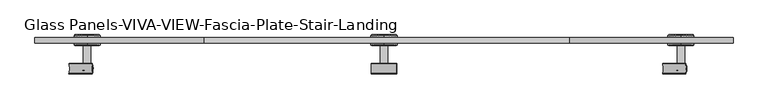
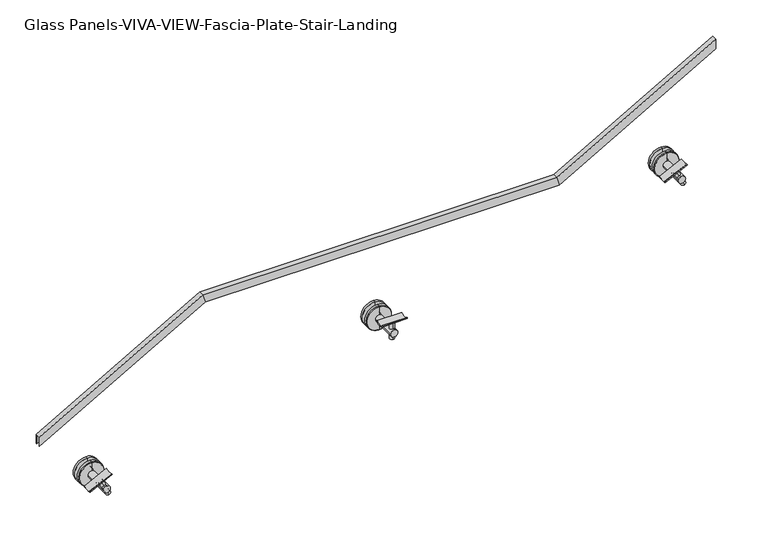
"""IFC4 building model written with IfcOpenShell, lengths in millimetres: railing geometry, Glass Panels-VIVA-VIEW-Fascia-Plate-Stair-Landing."""

from ifc_helpers import new_model, si_unit, point, frame, frame_2d, origin, place, context, project, spatial, polyline, circle_curve, trimmed, segment, composite_curve, outline, extrude, faceted_brep, source, transform, mapped, element, save
from ifc_brep_helpers import plane_surface, cylinder_surface, revolved_surface, advanced_brep


def glass_panels_viva_view_fascia_plate_stair_landing_6631e8c1(model_context):
    return source(origin(), model_context, "Body", "SolidModel", [
        faceted_brep([(34673.4016433, -10291.1594585, 2988.1285714), (34673.4016433, -10275.2844585, 2988.1285714), (34673.4016433, -10275.2844585, 2958.8740933), (34673.4016433, -10276.8719585, 2958.8740933), (34673.4016433, -10276.8719585, 2986.3001665), (34673.4016433, -10289.5719585, 2986.3001665), (34673.4016433, -10289.5719585, 2958.8740933), (34673.4016433, -10291.1594585, 2958.8740933), (35165.5266433, -10291.1594585, 3269.3428571), (35165.5266433, -10275.2844585, 3269.3428571), (35172.27198, -10275.2844585, 3243.9428571), (35172.27198, -10276.8719585, 3243.9428571), (35165.9482268, -10276.8719585, 3267.7553571), (35165.9482268, -10289.5719585, 3267.7553571), (35172.27198, -10289.5719585, 3243.9428571), (35172.27198, -10291.1594585, 3243.9428571), (36232.3266433, -10291.1594585, 3269.3428571), (36232.3266433, -10275.2844585, 3269.3428571), (36239.07198, -10275.2844585, 3243.9428571), (36239.07198, -10276.8719585, 3243.9428571), (36232.7482268, -10276.8719585, 3267.7553571), (36232.7482268, -10289.5719585, 3267.7553571), (36239.07198, -10289.5719585, 3243.9428571), (36239.07198, -10291.1594585, 3243.9428571), (36710.9578933, -10291.1594585, 3542.8464286), (36710.9578933, -10291.1594585, 3513.5919505), (36710.9578933, -10289.5719585, 3513.5919505), (36710.9578933, -10289.5719585, 3541.0180237), (36710.9578933, -10276.8719585, 3541.0180237), (36710.9578933, -10276.8719585, 3513.5919505), (36710.9578933, -10275.2844585, 3513.5919505), (36710.9578933, -10275.2844585, 3542.8464286)], [[[0, 1, 2, 3, 4, 5, 6, 7]], [[1, 0, 8, 9]], [[2, 1, 9, 10]], [[3, 2, 10, 11]], [[4, 3, 11, 12]], [[5, 4, 12, 13]], [[6, 5, 13, 14]], [[7, 6, 14, 15]], [[0, 7, 15, 8]], [[9, 8, 16, 17]], [[10, 9, 17, 18]], [[11, 10, 18, 19]], [[12, 11, 19, 20]], [[13, 12, 20, 21]], [[14, 13, 21, 22]], [[15, 14, 22, 23]], [[8, 15, 23, 16]], [[24, 25, 26, 27, 28, 29, 30, 31]], [[17, 16, 24, 31]], [[18, 17, 31, 30]], [[19, 18, 30, 29]], [[20, 19, 29, 28]], [[21, 20, 28, 27]], [[22, 21, 27, 26]], [[23, 22, 26, 25]], [[16, 23, 25, 24]]]),
        extrude(outline(composite_curve([segment(trimmed(circle_curve(frame_2d((35692.1797683, -10365.4418194)), 7.0), [point((35692.1797683, -10372.4418194))], [point((35692.1797683, -10358.4418194))], False, "CARTESIAN"), True, "CONTINUOUS"), segment(trimmed(circle_curve(frame_2d((35692.1797683, -10365.4418194)), 7.0), [point((35692.1797683, -10358.4418194))], [point((35692.1797683, -10372.4418194))], False, "CARTESIAN"), True, "CONTINUOUS")], self_intersect=False)), frame((0.0, 0.0, 2992.4664418), z_axis=(0.0, 0.0, 1.0), x_axis=(1.0, 0.0, 0.0)), (0.0, 0.0, 1.0), 52.8378352),
        extrude(outline(composite_curve([segment(polyline([(5.2466064, -13.9247916), (4.2292193, -14.9511812)]), True, "CONTINUOUS"), segment(trimmed(circle_curve(frame_2d((3.1638974, -13.8952033)), 1.5), [point((4.2292193, -14.9511812))], [point((2.0329757, -14.8806048))], False, "CARTESIAN"), True, "CONTINUOUS"), segment(trimmed(circle_curve(frame_2d((18.6575251, -0.3952033)), 22.05), [point((2.0329757, -14.8806048))], [point((2.0329757, 14.0901981))], False, "CARTESIAN"), True, "CONTINUOUS"), segment(trimmed(circle_curve(frame_2d((3.1638974, 13.1047967)), 1.5), [point((2.0329757, 14.0901981))], [point((4.2292193, 14.1607745))], False, "CARTESIAN"), True, "CONTINUOUS"), segment(polyline([(4.2292193, 14.1607745), (5.2466064, 13.1343849)]), True, "CONTINUOUS"), segment(trimmed(circle_curve(frame_2d((18.6575251, -0.3952033)), 19.05), [point((5.2466064, 13.1343849))], [point((5.2466064, -13.9247916))], True, "CARTESIAN"), True, "CONTINUOUS")], self_intersect=False)), frame((35654.9926572, -10367.1690518, 3048.6249714), z_axis=(0.9999988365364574, 0.0, 0.0015254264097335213), x_axis=(-0.0015254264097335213, 0.0, 0.9999988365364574)), (0.0, 0.0, 1.0), 74.5229187),
        extrude(outline(composite_curve([segment(trimmed(circle_curve(frame_2d((3015.3428571, 35692.1797683)), 11.0132813), [point((3015.3428571, 35703.1930495))], [point((3015.3428571, 35681.166487))], False, "CARTESIAN"), True, "CONTINUOUS"), segment(trimmed(circle_curve(frame_2d((3015.3428571, 35692.1797683)), 11.0132813), [point((3015.3428571, 35681.166487))], [point((3015.3428571, 35703.1930495))], False, "CARTESIAN"), True, "CONTINUOUS")], self_intersect=False)), frame((0.0, -10378.4719585, 0.0), z_axis=(0.0, 1.0, 0.0), x_axis=(0.0, 0.0, 1.0)), (0.0, 0.0, 1.0), 79.2757812),
        advanced_brep(
        [(35692.1797683, -10267.2477397, 3015.3428571), (35692.1797683, -10267.2477397, 2979.2272321), (35692.1797683, -10267.2477397, 3051.4584821), (35692.1797683, -10299.1961772, 2979.2272321), (35692.1797683, -10299.1961772, 3015.3428571), (35692.1797683, -10299.1961772, 3051.4584821), (35692.1797683, -10297.2118022, 2977.2428571), (35692.1797683, -10297.2118022, 3053.4428571), (35692.1797683, -10289.5719585, 2977.2428571), (35692.1797683, -10289.5719585, 3053.4428571), (35692.1797683, -10289.5719585, 3002.6428571), (35692.1797683, -10289.5719585, 3028.0428571), (35692.1797683, -10276.8719585, 3002.6428571), (35692.1797683, -10276.8719585, 3028.0428571), (35692.1797683, -10276.8719585, 2977.2428571), (35692.1797683, -10276.8719585, 3053.4428571), (35692.1797683, -10269.2321147, 2977.2428571), (35692.1797683, -10269.2321147, 3053.4428571)],
        [
            (0, 1),
            (1, 2, circle_curve(frame((35692.1797683, -10267.2477397, 3015.3428571), z_axis=(0.0, 1.0, 0.0), x_axis=(0.0, 0.0, 1.0)), 36.115625)),
            (2, 0),
            (2, 1, circle_curve(frame((35692.1797683, -10267.2477397, 3015.3428571), z_axis=(0.0, 1.0, 0.0), x_axis=(0.0, 0.0, 1.0)), 36.115625)),
            (3, 4),
            (4, 5),
            (5, 3, circle_curve(frame((35692.1797683, -10299.1961772, 3015.3428571), z_axis=(0.0, -1.0, 0.0), x_axis=(0.0, 0.0, 1.0)), 36.115625)),
            (3, 5, circle_curve(frame((35692.1797683, -10299.1961772, 3015.3428571), z_axis=(0.0, -1.0, 0.0), x_axis=(0.0, 0.0, 1.0)), 36.115625)),
            (6, 3),
            (5, 7),
            (7, 6, circle_curve(frame((35692.1797683, -10297.2118022, 3015.3428571), z_axis=(0.0, -1.0, 0.0), x_axis=(0.0, 0.0, 1.0)), 38.1)),
            (6, 7, circle_curve(frame((35692.1797683, -10297.2118022, 3015.3428571), z_axis=(0.0, -1.0, 0.0), x_axis=(0.0, 0.0, 1.0)), 38.1)),
            (8, 6),
            (7, 9),
            (9, 8, circle_curve(frame((35692.1797683, -10289.5719585, 3015.3428571), z_axis=(0.0, -1.0, 0.0), x_axis=(0.0, 0.0, 1.0)), 38.1)),
            (8, 9, circle_curve(frame((35692.1797683, -10289.5719585, 3015.3428571), z_axis=(0.0, -1.0, 0.0), x_axis=(0.0, 0.0, 1.0)), 38.1)),
            (10, 8),
            (9, 11),
            (11, 10, circle_curve(frame((35692.1797683, -10289.5719585, 3015.3428571), z_axis=(0.0, -1.0, 0.0), x_axis=(0.0, 0.0, 1.0)), 12.7)),
            (10, 11, circle_curve(frame((35692.1797683, -10289.5719585, 3015.3428571), z_axis=(0.0, -1.0, 0.0), x_axis=(0.0, 0.0, 1.0)), 12.7)),
            (12, 10),
            (11, 13),
            (13, 12, circle_curve(frame((35692.1797683, -10276.8719585, 3015.3428571), z_axis=(0.0, -1.0, 0.0), x_axis=(0.0, 0.0, 1.0)), 12.7)),
            (12, 13, circle_curve(frame((35692.1797683, -10276.8719585, 3015.3428571), z_axis=(0.0, -1.0, 0.0), x_axis=(0.0, 0.0, 1.0)), 12.7)),
            (14, 12),
            (13, 15),
            (15, 14, circle_curve(frame((35692.1797683, -10276.8719585, 3015.3428571), z_axis=(0.0, -1.0, 0.0), x_axis=(0.0, 0.0, 1.0)), 38.1)),
            (14, 15, circle_curve(frame((35692.1797683, -10276.8719585, 3015.3428571), z_axis=(0.0, -1.0, 0.0), x_axis=(0.0, 0.0, 1.0)), 38.1)),
            (16, 14),
            (15, 17),
            (17, 16, circle_curve(frame((35692.1797683, -10269.2321147, 3015.3428571), z_axis=(0.0, -1.0, 0.0), x_axis=(0.0, 0.0, 1.0)), 38.1)),
            (16, 17, circle_curve(frame((35692.1797683, -10269.2321147, 3015.3428571), z_axis=(0.0, -1.0, 0.0), x_axis=(0.0, 0.0, 1.0)), 38.1)),
            (1, 16),
            (17, 2),
        ],
        [
            plane_surface(frame((35692.1797683, -10267.2477397, 3015.3428571), z_axis=(0.0, 1.0, 0.0), x_axis=(0.0, 0.0, 1.0))),
            plane_surface(frame((35692.1797683, -10299.1961772, 3015.3428571), z_axis=(0.0, -1.0, 0.0), x_axis=(0.0, 0.0, 1.0))),
            revolved_surface(polyline([(35692.1797683, -10299.1961772, 3051.4584821), (35692.1797683, -10297.2118022, 3053.4428571)]), (35692.1797683, -10231.1321147, 3015.3428571), (0.0, 1.0, 0.0)),
            cylinder_surface(frame((35692.1797683, -10231.1321147, 3015.3428571), z_axis=(0.0, 1.0, 0.0), x_axis=(0.0, 0.0, 1.0)), 38.1),
            plane_surface(frame((35692.1797683, -10289.5719585, 3015.3428571), z_axis=(0.0, 1.0, 0.0), x_axis=(0.0, 0.0, 1.0))),
            cylinder_surface(frame((35692.1797683, -10231.1321147, 3015.3428571), z_axis=(0.0, 1.0, 0.0), x_axis=(0.0, 0.0, 1.0)), 12.7),
            plane_surface(frame((35692.1797683, -10276.8719585, 3015.3428571), z_axis=(0.0, -1.0, 0.0), x_axis=(0.0, 0.0, 1.0))),
            revolved_surface(polyline([(35692.1797683, -10269.2321147, 3053.4428571), (35692.1797683, -10267.2477397, 3051.4584821)]), (35692.1797683, -10231.1321147, 3015.3428571), (0.0, 1.0, 0.0)),
        ],
        [
            (0, [[1, 2, 3]]),
            (0, [[-3, 4, -1]]),
            (1, [[5, 6, 7]]),
            (1, [[-6, -5, 8]]),
            (2, [[9, -7, 10, 11]]),
            (2, [[-10, -8, -9, 12]]),
            (3, [[13, -11, 14, 15]]),
            (3, [[-14, -12, -13, 16]]),
            (4, [[17, -15, 18, 19]]),
            (4, [[-18, -16, -17, 20]]),
            (5, [[21, -19, 22, 23]]),
            (5, [[-22, -20, -21, 24]]),
            (6, [[25, -23, 26, 27]]),
            (6, [[-26, -24, -25, 28]]),
            (3, [[29, -27, 30, 31]]),
            (3, [[-30, -28, -29, 32]]),
            (7, [[33, -31, 34, -2]]),
            (7, [[-34, -32, -33, -4]]),
        ],
    ),
        extrude(outline(composite_curve([segment(trimmed(circle_curve(frame_2d((0.0, 7.0)), 7.0), [point((0.0, 14.0))], [point((0.0, 0.0))], False, "CARTESIAN"), True, "CONTINUOUS"), segment(trimmed(circle_curve(frame_2d((0.0, 7.0)), 7.0), [point((0.0, 0.0))], [point((0.0, 14.0))], False, "CARTESIAN"), True, "CONTINUOUS")], self_intersect=False)), frame((36569.978817, -10358.4418194, 3178.8842989), z_axis=(-0.4481147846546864, 0.0, 0.8939760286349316), x_axis=(-0.8939760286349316, 0.0, -0.4481147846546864)), (0.0, 0.0, 1.0), 52.8378352),
        extrude(outline(composite_curve([segment(polyline([(5.2466063, -13.9247916), (4.2292193, -14.9511812)]), True, "CONTINUOUS"), segment(trimmed(circle_curve(frame_2d((3.1638975, -13.8952033)), 1.5), [point((4.2292193, -14.9511812))], [point((2.0329757, -14.8806048))], False, "CARTESIAN"), True, "CONTINUOUS"), segment(trimmed(circle_curve(frame_2d((18.6575251, -0.3952033)), 22.05), [point((2.0329757, -14.8806048))], [point((2.0329757, 14.0901981))], False, "CARTESIAN"), True, "CONTINUOUS"), segment(trimmed(circle_curve(frame_2d((3.1638975, 13.1047967)), 1.5), [point((2.0329757, 14.0901981))], [point((4.2292193, 14.1607745))], False, "CARTESIAN"), True, "CONTINUOUS"), segment(polyline([(4.2292193, 14.1607745), (5.2466063, 13.1343849)]), True, "CONTINUOUS"), segment(trimmed(circle_curve(frame_2d((18.6575251, -0.3952033)), 19.05), [point((5.2466063, 13.1343849))], [point((5.2466063, -13.9247916))], True, "CARTESIAN"), True, "CONTINUOUS")], self_intersect=False)), frame((36507.324839, -10367.1690518, 3210.5094028), z_axis=(0.8953503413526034, 0.0, 0.44536251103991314), x_axis=(-0.44536251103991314, 0.0, 0.8953503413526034)), (0.0, 0.0, 1.0), 74.5229187),
        extrude(outline(composite_curve([segment(trimmed(circle_curve(frame_2d((3201.7607143, 36558.5578933)), 11.0132813), [point((3201.7607143, 36569.5711745))], [point((3201.7607143, 36547.544612))], False, "CARTESIAN"), True, "CONTINUOUS"), segment(trimmed(circle_curve(frame_2d((3201.7607143, 36558.5578933)), 11.0132813), [point((3201.7607143, 36547.544612))], [point((3201.7607143, 36569.5711745))], False, "CARTESIAN"), True, "CONTINUOUS")], self_intersect=False)), frame((0.0, -10378.4719585, 0.0), z_axis=(0.0, 1.0, 0.0), x_axis=(0.0, 0.0, 1.0)), (0.0, 0.0, 1.0), 79.2757812),
        advanced_brep(
        [(36558.5578933, -10267.2477397, 3201.7607143), (36558.5578933, -10267.2477397, 3165.6450893), (36558.5578933, -10267.2477397, 3237.8763393), (36558.5578933, -10299.1961772, 3165.6450893), (36558.5578933, -10299.1961772, 3201.7607143), (36558.5578933, -10299.1961772, 3237.8763393), (36558.5578933, -10297.2118022, 3163.6607143), (36558.5578933, -10297.2118022, 3239.8607143), (36558.5578933, -10289.5719585, 3163.6607143), (36558.5578933, -10289.5719585, 3239.8607143), (36558.5578933, -10289.5719585, 3189.0607143), (36558.5578933, -10289.5719585, 3214.4607143), (36558.5578933, -10276.8719585, 3189.0607143), (36558.5578933, -10276.8719585, 3214.4607143), (36558.5578933, -10276.8719585, 3163.6607143), (36558.5578933, -10276.8719585, 3239.8607143), (36558.5578933, -10269.2321147, 3163.6607143), (36558.5578933, -10269.2321147, 3239.8607143)],
        [
            (0, 1),
            (1, 2, circle_curve(frame((36558.5578933, -10267.2477397, 3201.7607143), z_axis=(0.0, 1.0, 0.0), x_axis=(0.0, 0.0, 1.0)), 36.115625)),
            (2, 0),
            (2, 1, circle_curve(frame((36558.5578933, -10267.2477397, 3201.7607143), z_axis=(0.0, 1.0, 0.0), x_axis=(0.0, 0.0, 1.0)), 36.115625)),
            (3, 4),
            (4, 5),
            (5, 3, circle_curve(frame((36558.5578933, -10299.1961772, 3201.7607143), z_axis=(0.0, -1.0, 0.0), x_axis=(0.0, 0.0, 1.0)), 36.115625)),
            (3, 5, circle_curve(frame((36558.5578933, -10299.1961772, 3201.7607143), z_axis=(0.0, -1.0, 0.0), x_axis=(0.0, 0.0, 1.0)), 36.115625)),
            (6, 3),
            (5, 7),
            (7, 6, circle_curve(frame((36558.5578933, -10297.2118022, 3201.7607143), z_axis=(0.0, -1.0, 0.0), x_axis=(0.0, 0.0, 1.0)), 38.1)),
            (6, 7, circle_curve(frame((36558.5578933, -10297.2118022, 3201.7607143), z_axis=(0.0, -1.0, 0.0), x_axis=(0.0, 0.0, 1.0)), 38.1)),
            (8, 6),
            (7, 9),
            (9, 8, circle_curve(frame((36558.5578933, -10289.5719585, 3201.7607143), z_axis=(0.0, -1.0, 0.0), x_axis=(0.0, 0.0, 1.0)), 38.1)),
            (8, 9, circle_curve(frame((36558.5578933, -10289.5719585, 3201.7607143), z_axis=(0.0, -1.0, 0.0), x_axis=(0.0, 0.0, 1.0)), 38.1)),
            (10, 8),
            (9, 11),
            (11, 10, circle_curve(frame((36558.5578933, -10289.5719585, 3201.7607143), z_axis=(0.0, -1.0, 0.0), x_axis=(0.0, 0.0, 1.0)), 12.7)),
            (10, 11, circle_curve(frame((36558.5578933, -10289.5719585, 3201.7607143), z_axis=(0.0, -1.0, 0.0), x_axis=(0.0, 0.0, 1.0)), 12.7)),
            (12, 10),
            (11, 13),
            (13, 12, circle_curve(frame((36558.5578933, -10276.8719585, 3201.7607143), z_axis=(0.0, -1.0, 0.0), x_axis=(0.0, 0.0, 1.0)), 12.7)),
            (12, 13, circle_curve(frame((36558.5578933, -10276.8719585, 3201.7607143), z_axis=(0.0, -1.0, 0.0), x_axis=(0.0, 0.0, 1.0)), 12.7)),
            (14, 12),
            (13, 15),
            (15, 14, circle_curve(frame((36558.5578933, -10276.8719585, 3201.7607143), z_axis=(0.0, -1.0, 0.0), x_axis=(0.0, 0.0, 1.0)), 38.1)),
            (14, 15, circle_curve(frame((36558.5578933, -10276.8719585, 3201.7607143), z_axis=(0.0, -1.0, 0.0), x_axis=(0.0, 0.0, 1.0)), 38.1)),
            (16, 14),
            (15, 17),
            (17, 16, circle_curve(frame((36558.5578933, -10269.2321147, 3201.7607143), z_axis=(0.0, -1.0, 0.0), x_axis=(0.0, 0.0, 1.0)), 38.1)),
            (16, 17, circle_curve(frame((36558.5578933, -10269.2321147, 3201.7607143), z_axis=(0.0, -1.0, 0.0), x_axis=(0.0, 0.0, 1.0)), 38.1)),
            (1, 16),
            (17, 2),
        ],
        [
            plane_surface(frame((36558.5578933, -10267.2477397, 3201.7607143), z_axis=(0.0, 1.0, 0.0), x_axis=(0.0, 0.0, 1.0))),
            plane_surface(frame((36558.5578933, -10299.1961772, 3201.7607143), z_axis=(0.0, -1.0, 0.0), x_axis=(0.0, 0.0, 1.0))),
            revolved_surface(polyline([(36558.5578933, -10299.1961772, 3237.8763393), (36558.5578933, -10297.2118022, 3239.8607143)]), (36558.5578933, -10231.1321147, 3201.7607143), (0.0, 1.0, 0.0)),
            cylinder_surface(frame((36558.5578933, -10231.1321147, 3201.7607143), z_axis=(0.0, 1.0, 0.0), x_axis=(0.0, 0.0, 1.0)), 38.1),
            plane_surface(frame((36558.5578933, -10289.5719585, 3201.7607143), z_axis=(0.0, 1.0, 0.0), x_axis=(0.0, 0.0, 1.0))),
            cylinder_surface(frame((36558.5578933, -10231.1321147, 3201.7607143), z_axis=(0.0, 1.0, 0.0), x_axis=(0.0, 0.0, 1.0)), 12.7),
            plane_surface(frame((36558.5578933, -10276.8719585, 3201.7607143), z_axis=(0.0, -1.0, 0.0), x_axis=(0.0, 0.0, 1.0))),
            revolved_surface(polyline([(36558.5578933, -10269.2321147, 3239.8607143), (36558.5578933, -10267.2477397, 3237.8763393)]), (36558.5578933, -10231.1321147, 3201.7607143), (0.0, 1.0, 0.0)),
        ],
        [
            (0, [[1, 2, 3]]),
            (0, [[-3, 4, -1]]),
            (1, [[5, 6, 7]]),
            (1, [[-6, -5, 8]]),
            (2, [[9, -7, 10, 11]]),
            (2, [[-10, -8, -9, 12]]),
            (3, [[13, -11, 14, 15]]),
            (3, [[-14, -12, -13, 16]]),
            (4, [[17, -15, 18, 19]]),
            (4, [[-18, -16, -17, 20]]),
            (5, [[21, -19, 22, 23]]),
            (5, [[-22, -20, -21, 24]]),
            (6, [[25, -23, 26, 27]]),
            (6, [[-26, -24, -25, 28]]),
            (3, [[29, -27, 30, 31]]),
            (3, [[-30, -28, -29, 32]]),
            (7, [[33, -31, 34, -2]]),
            (7, [[-34, -32, -33, -4]]),
        ],
    ),
        extrude(outline(composite_curve([segment(trimmed(circle_curve(frame_2d((0.0, 7.0)), 7.0), [point((0.0, 14.0))], [point((0.0, 0.0))], False, "CARTESIAN"), True, "CONTINUOUS"), segment(trimmed(circle_curve(frame_2d((0.0, 7.0)), 7.0), [point((0.0, 0.0))], [point((0.0, 14.0))], False, "CARTESIAN"), True, "CONTINUOUS")], self_intersect=False)), frame((34837.222567, -10358.4418194, 2798.3378704), z_axis=(-0.4481147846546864, 0.0, 0.8939760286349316), x_axis=(-0.8939760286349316, 0.0, -0.4481147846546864)), (0.0, 0.0, 1.0), 52.8378352),
        extrude(outline(composite_curve([segment(polyline([(5.2466063, -13.9247916), (4.2292192, -14.9511812)]), True, "CONTINUOUS"), segment(trimmed(circle_curve(frame_2d((3.1638974, -13.8952033)), 1.5), [point((4.2292192, -14.9511812))], [point((2.0329756, -14.8806048))], False, "CARTESIAN"), True, "CONTINUOUS"), segment(trimmed(circle_curve(frame_2d((18.6575251, -0.3952033)), 22.05), [point((2.0329756, -14.8806048))], [point((2.0329756, 14.0901981))], False, "CARTESIAN"), True, "CONTINUOUS"), segment(trimmed(circle_curve(frame_2d((3.1638974, 13.1047967)), 1.5), [point((2.0329756, 14.0901981))], [point((4.2292192, 14.1607745))], False, "CARTESIAN"), True, "CONTINUOUS"), segment(polyline([(4.2292192, 14.1607745), (5.2466063, 13.1343849)]), True, "CONTINUOUS"), segment(trimmed(circle_curve(frame_2d((18.6575251, -0.3952033)), 19.05), [point((5.2466063, 13.1343849))], [point((5.2466063, -13.9247916))], True, "CARTESIAN"), True, "CONTINUOUS")], self_intersect=False)), frame((34774.568589, -10367.1690518, 2829.9629743), z_axis=(0.8953503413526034, 0.0, 0.44536251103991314), x_axis=(-0.44536251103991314, 0.0, 0.8953503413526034)), (0.0, 0.0, 1.0), 74.5229187),
        extrude(outline(composite_curve([segment(trimmed(circle_curve(frame_2d((2821.2142857, 34825.8016433)), 11.0132813), [point((2821.2142857, 34836.8149245))], [point((2821.2142857, 34814.788362))], False, "CARTESIAN"), True, "CONTINUOUS"), segment(trimmed(circle_curve(frame_2d((2821.2142857, 34825.8016433)), 11.0132813), [point((2821.2142857, 34814.788362))], [point((2821.2142857, 34836.8149245))], False, "CARTESIAN"), True, "CONTINUOUS")], self_intersect=False)), frame((0.0, -10378.4719585, 0.0), z_axis=(0.0, 1.0, 0.0), x_axis=(0.0, 0.0, 1.0)), (0.0, 0.0, 1.0), 79.2757812),
        advanced_brep(
        [(34825.8016433, -10267.2477397, 2821.2142857), (34825.8016433, -10267.2477397, 2785.0986607), (34825.8016433, -10267.2477397, 2857.3299107), (34825.8016433, -10299.1961772, 2785.0986607), (34825.8016433, -10299.1961772, 2821.2142857), (34825.8016433, -10299.1961772, 2857.3299107), (34825.8016433, -10297.2118022, 2783.1142857), (34825.8016433, -10297.2118022, 2859.3142857), (34825.8016433, -10289.5719585, 2783.1142857), (34825.8016433, -10289.5719585, 2859.3142857), (34825.8016433, -10289.5719585, 2808.5142857), (34825.8016433, -10289.5719585, 2833.9142857), (34825.8016433, -10276.8719585, 2808.5142857), (34825.8016433, -10276.8719585, 2833.9142857), (34825.8016433, -10276.8719585, 2783.1142857), (34825.8016433, -10276.8719585, 2859.3142857), (34825.8016433, -10269.2321147, 2783.1142857), (34825.8016433, -10269.2321147, 2859.3142857)],
        [
            (0, 1),
            (1, 2, circle_curve(frame((34825.8016433, -10267.2477397, 2821.2142857), z_axis=(0.0, 1.0, 0.0), x_axis=(0.0, 0.0, 1.0)), 36.115625)),
            (2, 0),
            (2, 1, circle_curve(frame((34825.8016433, -10267.2477397, 2821.2142857), z_axis=(0.0, 1.0, 0.0), x_axis=(0.0, 0.0, 1.0)), 36.115625)),
            (3, 4),
            (4, 5),
            (5, 3, circle_curve(frame((34825.8016433, -10299.1961772, 2821.2142857), z_axis=(0.0, -1.0, 0.0), x_axis=(0.0, 0.0, 1.0)), 36.115625)),
            (3, 5, circle_curve(frame((34825.8016433, -10299.1961772, 2821.2142857), z_axis=(0.0, -1.0, 0.0), x_axis=(0.0, 0.0, 1.0)), 36.115625)),
            (6, 3),
            (5, 7),
            (7, 6, circle_curve(frame((34825.8016433, -10297.2118022, 2821.2142857), z_axis=(0.0, -1.0, 0.0), x_axis=(0.0, 0.0, 1.0)), 38.1)),
            (6, 7, circle_curve(frame((34825.8016433, -10297.2118022, 2821.2142857), z_axis=(0.0, -1.0, 0.0), x_axis=(0.0, 0.0, 1.0)), 38.1)),
            (8, 6),
            (7, 9),
            (9, 8, circle_curve(frame((34825.8016433, -10289.5719585, 2821.2142857), z_axis=(0.0, -1.0, 0.0), x_axis=(0.0, 0.0, 1.0)), 38.1)),
            (8, 9, circle_curve(frame((34825.8016433, -10289.5719585, 2821.2142857), z_axis=(0.0, -1.0, 0.0), x_axis=(0.0, 0.0, 1.0)), 38.1)),
            (10, 8),
            (9, 11),
            (11, 10, circle_curve(frame((34825.8016433, -10289.5719585, 2821.2142857), z_axis=(0.0, -1.0, 0.0), x_axis=(0.0, 0.0, 1.0)), 12.7)),
            (10, 11, circle_curve(frame((34825.8016433, -10289.5719585, 2821.2142857), z_axis=(0.0, -1.0, 0.0), x_axis=(0.0, 0.0, 1.0)), 12.7)),
            (12, 10),
            (11, 13),
            (13, 12, circle_curve(frame((34825.8016433, -10276.8719585, 2821.2142857), z_axis=(0.0, -1.0, 0.0), x_axis=(0.0, 0.0, 1.0)), 12.7)),
            (12, 13, circle_curve(frame((34825.8016433, -10276.8719585, 2821.2142857), z_axis=(0.0, -1.0, 0.0), x_axis=(0.0, 0.0, 1.0)), 12.7)),
            (14, 12),
            (13, 15),
            (15, 14, circle_curve(frame((34825.8016433, -10276.8719585, 2821.2142857), z_axis=(0.0, -1.0, 0.0), x_axis=(0.0, 0.0, 1.0)), 38.1)),
            (14, 15, circle_curve(frame((34825.8016433, -10276.8719585, 2821.2142857), z_axis=(0.0, -1.0, 0.0), x_axis=(0.0, 0.0, 1.0)), 38.1)),
            (16, 14),
            (15, 17),
            (17, 16, circle_curve(frame((34825.8016433, -10269.2321147, 2821.2142857), z_axis=(0.0, -1.0, 0.0), x_axis=(0.0, 0.0, 1.0)), 38.1)),
            (16, 17, circle_curve(frame((34825.8016433, -10269.2321147, 2821.2142857), z_axis=(0.0, -1.0, 0.0), x_axis=(0.0, 0.0, 1.0)), 38.1)),
            (1, 16),
            (17, 2),
        ],
        [
            plane_surface(frame((34825.8016433, -10267.2477397, 2821.2142857), z_axis=(0.0, 1.0, 0.0), x_axis=(0.0, 0.0, 1.0))),
            plane_surface(frame((34825.8016433, -10299.1961772, 2821.2142857), z_axis=(0.0, -1.0, 0.0), x_axis=(0.0, 0.0, 1.0))),
            revolved_surface(polyline([(34825.8016433, -10299.1961772, 2857.3299107), (34825.8016433, -10297.2118022, 2859.3142857)]), (34825.8016433, -10231.1321147, 2821.2142857), (0.0, 1.0, 0.0)),
            cylinder_surface(frame((34825.8016433, -10231.1321147, 2821.2142857), z_axis=(0.0, 1.0, 0.0), x_axis=(0.0, 0.0, 1.0)), 38.1),
            plane_surface(frame((34825.8016433, -10289.5719585, 2821.2142857), z_axis=(0.0, 1.0, 0.0), x_axis=(0.0, 0.0, 1.0))),
            cylinder_surface(frame((34825.8016433, -10231.1321147, 2821.2142857), z_axis=(0.0, 1.0, 0.0), x_axis=(0.0, 0.0, 1.0)), 12.7),
            plane_surface(frame((34825.8016433, -10276.8719585, 2821.2142857), z_axis=(0.0, -1.0, 0.0), x_axis=(0.0, 0.0, 1.0))),
            revolved_surface(polyline([(34825.8016433, -10269.2321147, 2859.3142857), (34825.8016433, -10267.2477397, 2857.3299107)]), (34825.8016433, -10231.1321147, 2821.2142857), (0.0, 1.0, 0.0)),
        ],
        [
            (0, [[1, 2, 3]]),
            (0, [[-3, 4, -1]]),
            (1, [[5, 6, 7]]),
            (1, [[-6, -5, 8]]),
            (2, [[9, -7, 10, 11]]),
            (2, [[-10, -8, -9, 12]]),
            (3, [[13, -11, 14, 15]]),
            (3, [[-14, -12, -13, 16]]),
            (4, [[17, -15, 18, 19]]),
            (4, [[-18, -16, -17, 20]]),
            (5, [[21, -19, 22, 23]]),
            (5, [[-22, -20, -21, 24]]),
            (6, [[25, -23, 26, 27]]),
            (6, [[-26, -24, -25, 28]]),
            (3, [[29, -27, 30, 31]]),
            (3, [[-30, -28, -29, 32]]),
            (7, [[33, -31, 34, -2]]),
            (7, [[-34, -32, -33, -4]]),
        ],
    ),
    ])


if __name__ == "__main__":
    model = new_model("IFC4")
    model_context = context("Model", 3, world=origin())
    ifc_project = project(units=[si_unit("LENGTHUNIT", "METRE", prefix="MILLI")], contexts=[model_context])
    site = spatial("IfcSite", under=ifc_project)
    building = spatial("IfcBuilding", under=site)
    placement = place(None, origin())
    glass_panels_viva_view_fascia_plate_stair_landing_shape = glass_panels_viva_view_fascia_plate_stair_landing_6631e8c1(model_context)
    element("IfcRailing", 1, ObjectType="Glass Panels-VIVA-VIEW-Fascia-Plate-Stair-Landing", at=placement, inside=building, context=model_context, shape_type="MappedRepresentation", body=[
        mapped(glass_panels_viva_view_fascia_plate_stair_landing_shape, transform((0.0, 0.0, 0.0), x_axis=(1.0, 0.0, 0.0), y_axis=(0.0, 1.0, 0.0), z_axis=(0.0, 0.0, 1.0))),
    ])
    save(model, "model.ifc")
